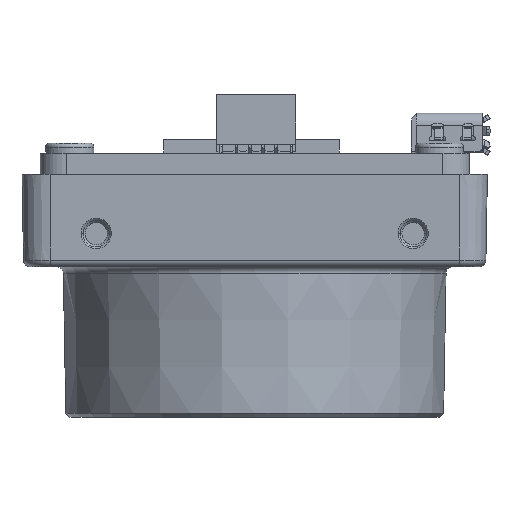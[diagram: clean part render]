
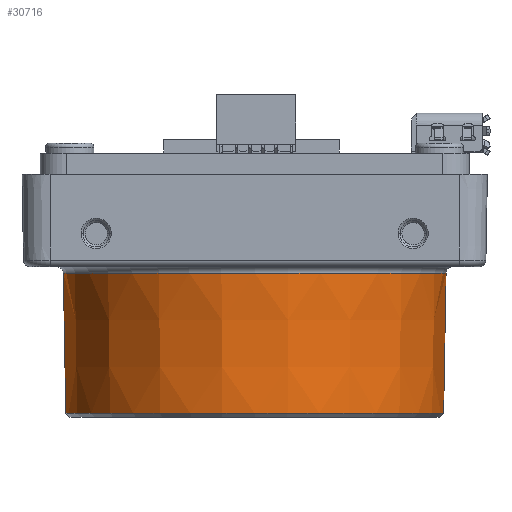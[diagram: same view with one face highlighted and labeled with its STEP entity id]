
A CAD part, front view. The second image highlights one B-rep face of the part: STEP entity #30716.
In plain terms, the highlighted conical face has half-angle 1 degrees and reference radius 14.399 mm.
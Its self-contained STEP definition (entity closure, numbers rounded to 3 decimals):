
#1551=CARTESIAN_POINT('',(0.,0.,-0.491));
#1552=DIRECTION('',(0.,0.,1.));
#1553=DIRECTION('',(-1.,0.,0.));
#1554=AXIS2_PLACEMENT_3D('',#1551,#1552,#1553);
#1556=DIRECTION('',(-0.017,0.,-1.));
#1557=VECTOR('',#1556,10.614);
#1558=CARTESIAN_POINT('',(14.491,0.,
-0.491));
#1559=LINE('',#1558,#1557);
#1560=DIRECTION('',(-0.017,0.,1.));
#1561=VECTOR('',#1560,10.614);
#1562=CARTESIAN_POINT('',(-14.306,0.,
-11.104));
#1563=LINE('',#1562,#1561);
#1564=CARTESIAN_POINT('',(0.,0.,-11.104));
#1565=DIRECTION('',(0.,0.,1.));
#1566=DIRECTION('',(-1.,0.,0.));
#1567=AXIS2_PLACEMENT_3D('',#1564,#1565,#1566);
#1569=CARTESIAN_POINT('',(0.,0.,-11.104));
#1570=DIRECTION('',(0.,0.,1.));
#1571=DIRECTION('',(0.,-1.,0.));
#1572=AXIS2_PLACEMENT_3D('',#1569,#1570,#1571);
#22900=CARTESIAN_POINT('',(14.491,0.,-0.491));
#22901=VERTEX_POINT('',#22900);
#22902=CARTESIAN_POINT('',(-14.491,0.,
-0.491));
#22903=VERTEX_POINT('',#22902);
#22904=CARTESIAN_POINT('',(-14.306,0.,
-11.104));
#22905=VERTEX_POINT('',#22904);
#22906=CARTESIAN_POINT('',(14.306,0.,
-11.104));
#22907=VERTEX_POINT('',#22906);
#22908=CARTESIAN_POINT('',(0.,-14.306,-11.104));
#22909=VERTEX_POINT('',#22908);
#30702=CARTESIAN_POINT('',(0.,0.,-5.798));
#30703=DIRECTION('',(0.,0.,1.));
#30704=DIRECTION('',(1.,0.,0.));
#30705=AXIS2_PLACEMENT_3D('',#30702,#30703,#30704);
#30706=CONICAL_SURFACE('',#30705,14.399,1.);
#30707=ORIENTED_EDGE('',*,*,#30667,.T.);
#30708=ORIENTED_EDGE('',*,*,#30697,.T.);
#30710=ORIENTED_EDGE('',*,*,#30709,.F.);
#30712=ORIENTED_EDGE('',*,*,#30711,.F.);
#30713=ORIENTED_EDGE('',*,*,#30693,.T.);
#30714=EDGE_LOOP('',(#30707,#30708,#30710,#30712,#30713));
#30715=FACE_OUTER_BOUND('',#30714,.F.);
#30716=ADVANCED_FACE('',(#30715),#30706,.T.);
#1555=CIRCLE('',#1554,14.491);
#1568=CIRCLE('',#1567,14.306);
#1573=CIRCLE('',#1572,14.306);
#30667=EDGE_CURVE('',#22903,#22901,#1555,.T.);
#30693=EDGE_CURVE('',#22905,#22903,#1563,.T.);
#30697=EDGE_CURVE('',#22901,#22907,#1559,.T.);
#30709=EDGE_CURVE('',#22909,#22907,#1573,.T.);
#30711=EDGE_CURVE('',#22905,#22909,#1568,.T.);
